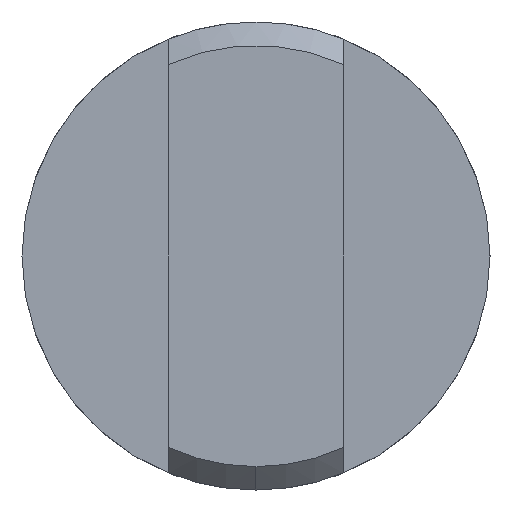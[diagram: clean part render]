
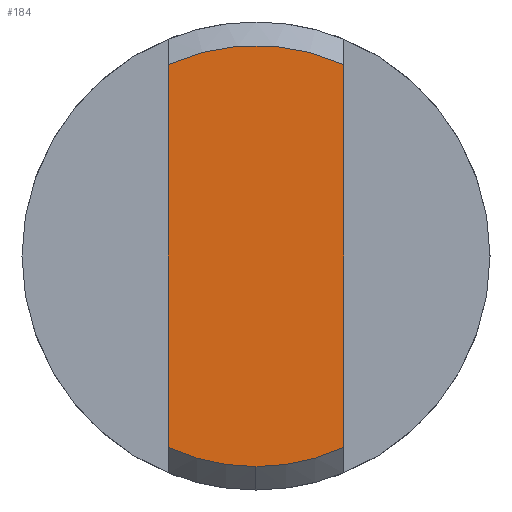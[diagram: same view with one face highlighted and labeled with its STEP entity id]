
A CAD part, left-side view. The second image highlights one B-rep face of the part: STEP entity #184.
In plain terms, the highlighted planar face has unit normal (-1, 0, 0).
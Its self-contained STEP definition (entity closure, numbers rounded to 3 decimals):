
#20 = DIRECTION ( 'NONE',  ( 0., 0., -1. ) ) ;
#23 = CARTESIAN_POINT ( 'NONE',  ( -9.5, -0.75, 0. ) ) ;
#160 = CARTESIAN_POINT ( 'NONE',  ( -9.5, 0.75, -1.636 ) ) ;
#177 = DIRECTION ( 'NONE',  ( 0., 0., -1. ) ) ;
#183 = ORIENTED_EDGE ( 'NONE', *, *, #612, .F. ) ;
#184 = ADVANCED_FACE ( 'NONE', ( #483 ), #405, .F. ) ;
#192 = VECTOR ( 'NONE', #684, 1000. ) ;
#212 = CARTESIAN_POINT ( 'NONE',  ( -9.5, 0., 0. ) ) ;
#236 = AXIS2_PLACEMENT_3D ( 'NONE', #746, #673, #20 ) ;
#270 = VECTOR ( 'NONE', #309, 1000. ) ;
#298 = EDGE_CURVE ( 'NONE', #737, #898, #340, .T. ) ;
#301 = CIRCLE ( 'NONE', #641, 1.8 ) ;
#309 = DIRECTION ( 'NONE',  ( 0., 0., 1. ) ) ;
#322 = DIRECTION ( 'NONE',  ( -1., 0., 0. ) ) ;
#340 = CIRCLE ( 'NONE', #464, 1.8 ) ;
#390 = VERTEX_POINT ( 'NONE', #529 ) ;
#405 = PLANE ( 'NONE',  #643 ) ;
#407 = ORIENTED_EDGE ( 'NONE', *, *, #450, .F. ) ;
#409 = CARTESIAN_POINT ( 'NONE',  ( -9.5, 0., -1.8 ) ) ;
#439 = EDGE_CURVE ( 'NONE', #560, #642, #894, .T. ) ;
#450 = EDGE_CURVE ( 'NONE', #560, #898, #741, .T. ) ;
#464 = AXIS2_PLACEMENT_3D ( 'NONE', #687, #322, #177 ) ;
#483 = FACE_OUTER_BOUND ( 'NONE', #607, .T. ) ;
#529 = CARTESIAN_POINT ( 'NONE',  ( -9.5, -0.75, -1.636 ) ) ;
#544 = CARTESIAN_POINT ( 'NONE',  ( -9.5, 0., 0. ) ) ;
#560 = VERTEX_POINT ( 'NONE', #160 ) ;
#582 = ORIENTED_EDGE ( 'NONE', *, *, #639, .T. ) ;
#607 = EDGE_LOOP ( 'NONE', ( #183, #791, #407, #872, #582 ) ) ;
#612 = EDGE_CURVE ( 'NONE', #737, #390, #749, .T. ) ;
#635 = DIRECTION ( 'NONE',  ( -1., 0., 0. ) ) ;
#639 = EDGE_CURVE ( 'NONE', #642, #390, #301, .T. ) ;
#641 = AXIS2_PLACEMENT_3D ( 'NONE', #544, #635, #778 ) ;
#642 = VERTEX_POINT ( 'NONE', #409 ) ;
#643 = AXIS2_PLACEMENT_3D ( 'NONE', #212, #653, #852 ) ;
#653 = DIRECTION ( 'NONE',  ( 1., 0., 0. ) ) ;
#673 = DIRECTION ( 'NONE',  ( -1., 0., 0. ) ) ;
#684 = DIRECTION ( 'NONE',  ( 0., 0., -1. ) ) ;
#687 = CARTESIAN_POINT ( 'NONE',  ( -9.5, 0., 0. ) ) ;
#737 = VERTEX_POINT ( 'NONE', #880 ) ;
#741 = LINE ( 'NONE', #816, #270 ) ;
#746 = CARTESIAN_POINT ( 'NONE',  ( -9.5, 0., 0. ) ) ;
#749 = LINE ( 'NONE', #23, #192 ) ;
#778 = DIRECTION ( 'NONE',  ( 0., 0., -1. ) ) ;
#791 = ORIENTED_EDGE ( 'NONE', *, *, #298, .T. ) ;
#809 = CARTESIAN_POINT ( 'NONE',  ( -9.5, 0.75, 1.636 ) ) ;
#816 = CARTESIAN_POINT ( 'NONE',  ( -9.5, 0.75, 0. ) ) ;
#852 = DIRECTION ( 'NONE',  ( 0., 0., -1. ) ) ;
#872 = ORIENTED_EDGE ( 'NONE', *, *, #439, .T. ) ;
#880 = CARTESIAN_POINT ( 'NONE',  ( -9.5, -0.75, 1.636 ) ) ;
#894 = CIRCLE ( 'NONE', #236, 1.8 ) ;
#898 = VERTEX_POINT ( 'NONE', #809 ) ;
